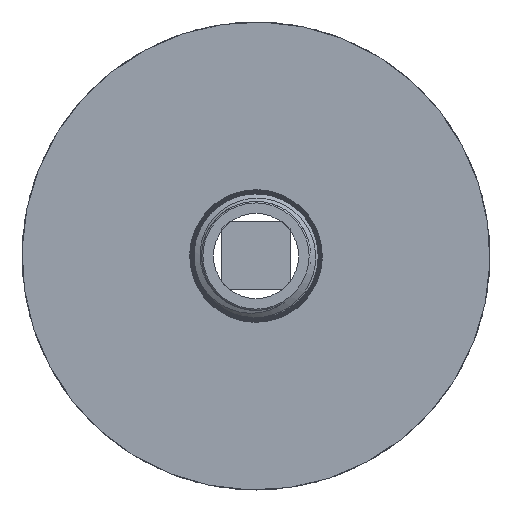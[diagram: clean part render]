
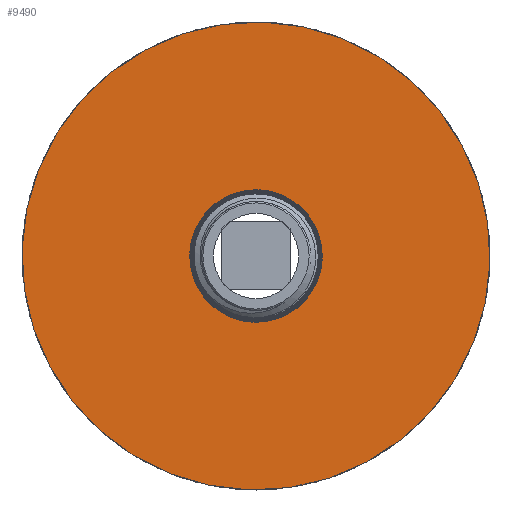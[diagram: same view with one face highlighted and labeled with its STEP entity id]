
A CAD part, front view. The second image highlights one B-rep face of the part: STEP entity #9490.
In plain terms, the highlighted planar face has unit normal (0, -1, 0).
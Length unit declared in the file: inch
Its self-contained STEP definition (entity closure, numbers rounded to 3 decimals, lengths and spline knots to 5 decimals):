
#145 = EDGE_CURVE ( 'NONE', #14977, #14977, #18261, .T. ) ;
#1847 = DIRECTION ( 'NONE',  ( 0., 1., 0. ) ) ;
#3324 = DIRECTION ( 'NONE',  ( 0., 1., 0. ) ) ;
#4617 = AXIS2_PLACEMENT_3D ( 'NONE', #4930, #16087, #5035 ) ;
#4889 = DIRECTION ( 'NONE',  ( -0.62, 0., 0.785 ) ) ;
#4930 = CARTESIAN_POINT ( 'NONE',  ( 5.15386, 1.25747, 8.77801 ) ) ;
#5035 = DIRECTION ( 'NONE',  ( -0.62, 0., 0.785 ) ) ;
#5373 = DIRECTION ( 'NONE',  ( -0.62, 0., 0.785 ) ) ;
#5680 = AXIS2_PLACEMENT_3D ( 'NONE', #9794, #3324, #4889 ) ;
#6365 = ORIENTED_EDGE ( 'NONE', *, *, #16715, .T. ) ;
#9490 = ADVANCED_FACE ( 'NONE', ( #19358, #14862 ), #11326, .F. ) ;
#9709 = CIRCLE ( 'NONE', #5680, 0.425 ) ;
#9794 = CARTESIAN_POINT ( 'NONE',  ( 5.15386, 1.25747, 8.77801 ) ) ;
#9883 = CARTESIAN_POINT ( 'NONE',  ( 4.22423, 1.25747, 9.95521 ) ) ;
#10460 = CARTESIAN_POINT ( 'NONE',  ( 4.89047, 1.25747, 9.11155 ) ) ;
#11326 = PLANE ( 'NONE',  #15125 ) ;
#14862 = FACE_BOUND ( 'NONE', #15546, .T. ) ;
#14977 = VERTEX_POINT ( 'NONE', #9883 ) ;
#15125 = AXIS2_PLACEMENT_3D ( 'NONE', #17988, #1847, #5373 ) ;
#15546 = EDGE_LOOP ( 'NONE', ( #6365 ) ) ;
#16087 = DIRECTION ( 'NONE',  ( 0., 1., 0. ) ) ;
#16483 = ORIENTED_EDGE ( 'NONE', *, *, #145, .F. ) ;
#16715 = EDGE_CURVE ( 'NONE', #20372, #20372, #9709, .T. ) ;
#17988 = CARTESIAN_POINT ( 'NONE',  ( 5.15386, 1.25747, 8.77801 ) ) ;
#18261 = CIRCLE ( 'NONE', #4617, 1.5 ) ;
#19358 = FACE_OUTER_BOUND ( 'NONE', #20182, .T. ) ;
#20182 = EDGE_LOOP ( 'NONE', ( #16483 ) ) ;
#20372 = VERTEX_POINT ( 'NONE', #10460 ) ;
